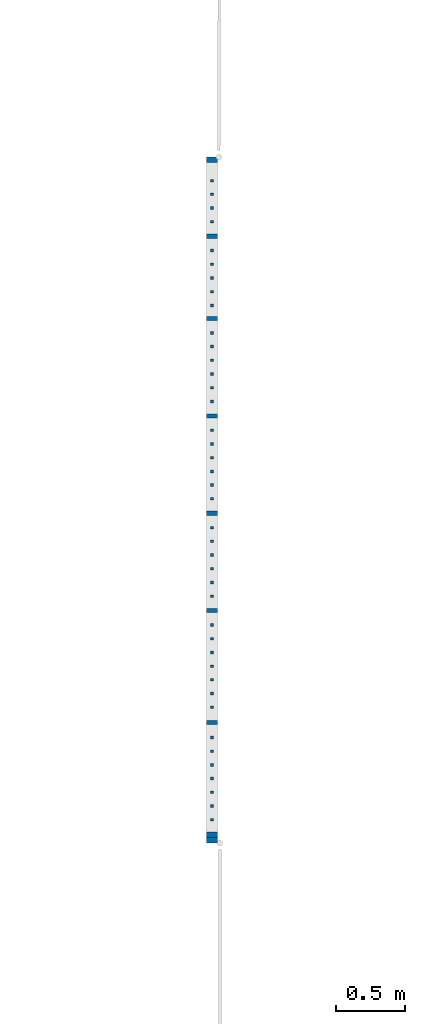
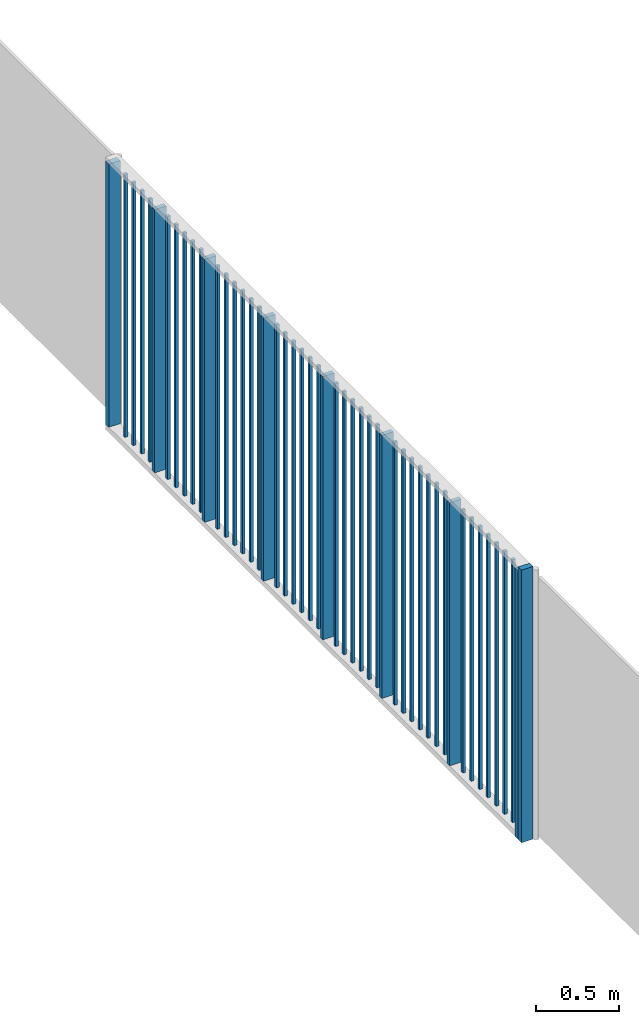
# One storey, part 6 of 91: 50 columns.
"""IFC2X3 building model written with IfcOpenShell, lengths in metres."""

from ifc_helpers import new_model, entity, si_unit, converted_unit, derived_unit, money_unit, direction, frame, origin_with_axes, origin_2d_with_axis, place, context, subcontext, project, spatial, rectangle, extrude, material, type_object, element, save


model = new_model("IFC2X3")

# Units and contexts
model_context = context("Model", 3, precision=1e-05, world=origin_with_axes(), true_north=direction((0.0, 1.0)))
body_context = subcontext(model_context, "Body", "Model", "MODEL_VIEW")
ifc_project = project(units=[si_unit("LENGTHUNIT", "METRE"), si_unit("AREAUNIT", "SQUARE_METRE"), si_unit("VOLUMEUNIT", "CUBIC_METRE"), converted_unit("PLANEANGLEUNIT", "DEGREE", entity("IfcPlaneAngleMeasure", 0.0174532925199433), si_unit("PLANEANGLEUNIT", "RADIAN"), dimensions=[0, 0, 0, 0, 0, 0, 0]), money_unit("EUR"), converted_unit("TIMEUNIT", "Year", entity("IfcTimeMeasure", 31557600.0), si_unit("TIMEUNIT", "SECOND"), dimensions=[0, 0, 1, 0, 0, 0, 0]), si_unit("MASSUNIT", "GRAM", prefix="KILO"), si_unit("THERMODYNAMICTEMPERATUREUNIT", "DEGREE_CELSIUS"), si_unit("LUMINOUSINTENSITYUNIT", "LUMEN"), si_unit("ENERGYUNIT", "JOULE", prefix="MEGA"), derived_unit("THERMALCONDUCTANCEUNIT", [(si_unit("POWERUNIT", "WATT"), 1), (si_unit("LENGTHUNIT", "METRE"), -1), (si_unit("THERMODYNAMICTEMPERATUREUNIT", "KELVIN"), -1)]), derived_unit("SPECIFICHEATCAPACITYUNIT", [(si_unit("ENERGYUNIT", "JOULE"), 1), (si_unit("MASSUNIT", "GRAM", prefix="KILO"), -1), (si_unit("THERMODYNAMICTEMPERATUREUNIT", "KELVIN"), -1)]), derived_unit("MASSDENSITYUNIT", [(si_unit("MASSUNIT", "GRAM", prefix="KILO"), 1), (si_unit("VOLUMEUNIT", "CUBIC_METRE"), -1)])], contexts=[model_context])

# Site, building, storey
site_placement = place(None, origin_with_axes())
site = spatial("IfcSite", under=ifc_project, at=site_placement, Name="Site", CompositionType="ELEMENT")
building_placement = place(site_placement, origin_with_axes())
building = spatial("IfcBuilding", under=site, at=building_placement, Name="Bâtiment", CompositionType="ELEMENT")
storey_placement = place(building_placement, origin_with_axes())
storey = spatial("IfcBuildingStorey", under=building, at=storey_placement, Name="RDC", CompositionType="ELEMENT", Elevation=0.0)

# Columns
ifc_material = material(Name="Métal - Acier")
column_type_1 = type_object("IfcColumnType", Name="Métal - Acier 20 x 20", PredefinedType="NOTDEFINED")
for number, where, z_axis, x_axis in (
    (1, (48.97569491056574, -2.697461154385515, 0.04000000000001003), (0.0, 0.0, 1.0), (0.0, 1.0, 0.0)),
    (2, (48.97569491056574, -2.897461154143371, 0.04000000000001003), (0.0, 0.0, 1.0), (0.0, 1.0, 0.0)),
    (3, (48.97569491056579, -2.087461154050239, 0.04000000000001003), (0.0, 0.0, 1.0), (0.0, 1.0, 0.0)),
    (4, (48.97569491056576, -1.887461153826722, 0.04000000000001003), (0.0, 0.0, 1.0), (0.0, 1.0, 0.0)),
    (5, (48.97569491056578, -1.98746115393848, 0.04000000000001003), (0.0, 0.0, 1.0), (0.0, 1.0, 0.0)),
    (6, (48.97569491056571, -2.597461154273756, 0.04000000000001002), (0.0, 0.0, 1.0), (0.0, 1.0, 0.0)),
    (7, (48.97569491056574, -2.797461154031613, 0.04000000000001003), (0.0, 0.0, 1.0), (0.0, 1.0, 0.0)),
    (8, (48.9756949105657, -2.497461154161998, 0.04000000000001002), (0.0, 0.0, 1.0), (0.0, 1.0, 0.0)),
    (9, (48.97569491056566, -3.317461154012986, 0.04000000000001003), (0.0, 0.0, 1.0), (0.0, 1.0, 0.0)),
    (10, (48.97569491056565, -3.217461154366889, 0.04000000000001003), (0.0, 0.0, 1.0), (0.0, 1.0, 0.0)),
    (11, (48.97569491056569, -2.397461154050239, 0.04000000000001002), (0.0, 0.0, 1.0), (0.0, 1.0, 0.0)),
    (12, (48.97569491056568, -3.517461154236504, 0.04000000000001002), (0.0, 0.0, 1.0), (0.0, 1.0, 0.0)),
    (13, (48.97569491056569, -3.617461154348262, 0.04000000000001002), (0.0, 0.0, 1.0), (0.0, 1.0, 0.0)),
    (14, (48.97569491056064, 0.4325388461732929, 0.04000000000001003), (0.0, 0.0, 1.0), (0.0, 1.0, 0.0)),
    (15, (48.97569491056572, -3.717461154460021, 0.04000000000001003), (0.0, 0.0, 1.0), (0.0, 1.0, 0.0)),
    (16, (48.97569491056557, -1.787461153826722, 0.04000000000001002), (0.0, 0.0, 1.0), (0.0, 1.0, 0.0)),
    (17, (48.97569491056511, -1.687461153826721, 0.04000000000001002), (0.0, 0.0, 1.0), (0.0, 1.0, 0.0)),
    (18, (48.97569491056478, -1.587461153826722, 0.04000000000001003), (0.0, 0.0, 1.0), (0.0, 1.0, 0.0)),
    (19, (48.97569491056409, -1.177461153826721, 0.04000000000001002), (0.0, 0.0, 1.0), (0.0, 1.0, 0.0)),
    (20, (48.97569491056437, -1.277461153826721, 0.04000000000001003), (0.0, 0.0, 1.0), (0.0, 1.0, 0.0)),
    (21, (48.97569491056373, -0.9774611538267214, 0.04000000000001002), (0.0, 0.0, 1.0), (0.0, 1.0, 0.0)),
    (22, (48.97569491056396, -1.077461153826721, 0.04000000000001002), (0.0, 0.0, 1.0), (0.0, 1.0, 0.0)),
    (23, (48.97569491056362, -0.8774611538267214, 0.04000000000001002), (0.0, 0.0, 1.0), (0.0, 1.0, 0.0)),
    (24, (48.97569491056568, -3.417461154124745, 0.04000000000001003), (0.0, 0.0, 1.0), (0.0, 1.0, 0.0)),
    (25, (48.97569491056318, -0.6674611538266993, 0.04000000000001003), (0.0, 0.0, 1.0), (0.0, 1.0, 0.0)),
    (26, (48.97569491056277, -0.5674611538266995, 0.04000000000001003), (0.0, 0.0, 1.0), (0.0, 1.0, 0.0)),
    (27, (48.97569491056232, -0.3674611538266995, 0.04000000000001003), (0.0, 0.0, 1.0), (0.0, 1.0, 0.0)),
    (28, (48.97569491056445, -1.377461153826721, 0.04000000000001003), (0.0, 0.0, 1.0), (0.0, 1.0, 0.0)),
    (29, (48.9756949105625, -0.4674611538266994, 0.04000000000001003), (0.0, 0.0, 1.0), (0.0, 1.0, 0.0)),
    (30, (48.97569491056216, -0.2674611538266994, 0.04000000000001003), (0.0, 0.0, 1.0), (0.0, 1.0, 0.0)),
    (31, (48.97569491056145, 0.0325388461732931, 0.04000000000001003), (0.0, 0.0, 1.0), (0.0, 1.0, 0.0)),
    (32, (48.97569491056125, 0.132538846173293, 0.04000000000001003), (0.0, 0.0, 1.0), (0.0, 1.0, 0.0)),
    (33, (48.97569491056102, 0.232538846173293, 0.04000000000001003), (0.0, 0.0, 1.0), (0.0, 1.0, 0.0)),
    (34, (48.97569491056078, 0.332538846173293, 0.04000000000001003), (0.0, 0.0, 1.0), (0.0, 1.0, 0.0)),
    (35, (48.97569491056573, -3.117461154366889, 0.04000000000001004), (0.0, 0.0, 1.0), (0.0, 1.0, 0.0)),
    (36, (48.97569491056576, -2.297461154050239, 0.04000000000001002), (0.0, 0.0, 1.0), (0.0, 1.0, 0.0)),
    (37, (48.97569491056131, 0.7425388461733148, 0.04000000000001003), (0.0, 0.0, 1.0), (0.0, 1.0, 0.0)),
    (38, (48.97569491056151, 0.6425388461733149, 0.04000000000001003), (0.0, 0.0, 1.0), (0.0, 1.0, 0.0)),
    (39, (48.97569491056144, 0.9425388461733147, 0.04000000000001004), (0.0, 0.0, 1.0), (0.0, 1.0, 0.0)),
    (40, (48.97569491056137, 0.8425388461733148, 0.04000000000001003), (0.0, 0.0, 1.0), (0.0, 1.0, 0.0)),
    (41, (48.97569491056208, -0.1674611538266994, 0.04000000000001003), (0.0, 0.0, 1.0), (0.0, 1.0, 0.0)),
):
    element("IfcColumn", number, at=place(storey_placement, frame(where, z_axis=z_axis, x_axis=x_axis)), inside=storey, type_object=column_type_1, material=ifc_material, Name="PotB-002", context=body_context, shape_type="SweptSolid", body=[
        extrude(rectangle(XDim=0.02, YDim=0.02, at=origin_2d_with_axis()), origin_with_axes(), (0.0, 0.0, 1.0), 1.92999999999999),
    ])
column_type_2 = type_object("IfcColumnType", Name="Métal - Acier 40 x 80", PredefinedType="NOTDEFINED")
column_1_placement = place(storey_placement, frame((48.97569491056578, -3.825963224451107, 0.0), z_axis=(0.0, 0.0, 1.0), x_axis=(0.0, 1.0, 0.0)))
element("IfcColumn", 42, at=column_1_placement, inside=storey, type_object=column_type_2, material=ifc_material, Name="PotB-002", context=body_context, shape_type="SweptSolid", body=[
    extrude(rectangle(XDim=0.04, YDim=0.08, at=origin_2d_with_axis()), origin_with_axes(), (0.0, 0.0, 1.0), 1.97),
])
column_2_placement = place(storey_placement, frame((48.97569491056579, 1.094036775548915, 0.04000000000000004), z_axis=(0.0, 0.0, 1.0), x_axis=(0.0, 1.0, 0.0)))
element("IfcColumn", 43, at=column_2_placement, inside=storey, type_object=column_type_2, material=ifc_material, Name="PotB-002", context=body_context, shape_type="SweptSolid", body=[
    extrude(rectangle(XDim=0.04, YDim=0.08, at=origin_2d_with_axis()), origin_with_axes(), (0.0, 0.0, 1.0), 1.93),
])
column_3_placement = place(storey_placement, frame((48.97569491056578, -3.865963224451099, 0.0), z_axis=(0.0, 0.0, 1.0), x_axis=(0.0, 1.0, 0.0)))
element("IfcColumn", 44, at=column_3_placement, inside=storey, type_object=column_type_2, material=ifc_material, Name="PotB-002", context=body_context, shape_type="SweptSolid", body=[
    extrude(rectangle(XDim=0.04, YDim=0.08, at=origin_2d_with_axis()), origin_with_axes(), (0.0, 0.0, 1.0), 2.0),
])
column_type_3 = type_object("IfcColumnType", Name="Métal - Acier 30 x 80", PredefinedType="NOTDEFINED")
column_4_placement = place(storey_placement, frame((48.97569491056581, -2.192461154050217, 0.04000000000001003), z_axis=(0.0, 0.0, 1.0), x_axis=(0.0, 1.0, 0.0)))
element("IfcColumn", 45, at=column_4_placement, inside=storey, type_object=column_type_3, material=ifc_material, Name="PotB-002", context=body_context, shape_type="SweptSolid", body=[
    extrude(rectangle(XDim=0.03, YDim=0.08, at=origin_2d_with_axis()), origin_with_axes(), (0.0, 0.0, 1.0), 1.92999999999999),
])
column_5_placement = place(storey_placement, frame((48.97569491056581, -3.00746115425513, 0.03999999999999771), z_axis=(0.0, 0.0, 1.0), x_axis=(0.0, 1.0, 0.0)))
element("IfcColumn", 46, at=column_5_placement, inside=storey, type_object=column_type_3, material=ifc_material, Name="PotB-002", context=body_context, shape_type="SweptSolid", body=[
    extrude(rectangle(XDim=0.03, YDim=0.08, at=origin_2d_with_axis()), origin_with_axes(), (0.0, 0.0, 1.0), 1.930000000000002),
])
column_6_placement = place(storey_placement, frame((48.97569491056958, -1.482461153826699, 0.0399999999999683), z_axis=(0.0, 0.0, 1.0), x_axis=(0.0, 1.0, 0.0)))
element("IfcColumn", 47, at=column_6_placement, inside=storey, type_object=column_type_3, material=ifc_material, Name="PotB-002", context=body_context, shape_type="SweptSolid", body=[
    extrude(rectangle(XDim=0.03, YDim=0.08, at=origin_2d_with_axis()), origin_with_axes(), (0.0, 0.0, 1.0), 1.930000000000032),
])
column_7_placement = place(storey_placement, frame((48.97569491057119, -0.7724611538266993, 0.03999999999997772), z_axis=(0.0, 0.0, 1.0), x_axis=(0.0, 1.0, 0.0)))
element("IfcColumn", 48, at=column_7_placement, inside=storey, type_object=column_type_3, material=ifc_material, Name="PotB-002", context=body_context, shape_type="SweptSolid", body=[
    extrude(rectangle(XDim=0.03, YDim=0.08, at=origin_2d_with_axis()), origin_with_axes(), (0.0, 0.0, 1.0), 1.930000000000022),
])
column_8_placement = place(storey_placement, frame((48.97569491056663, -0.06246115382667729, 0.03999999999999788), z_axis=(0.0, 0.0, 1.0), x_axis=(0.0, 1.0, 0.0)))
element("IfcColumn", 49, at=column_8_placement, inside=storey, type_object=column_type_3, material=ifc_material, Name="PotB-002", context=body_context, shape_type="SweptSolid", body=[
    extrude(rectangle(XDim=0.03, YDim=0.08, at=origin_2d_with_axis()), origin_with_axes(), (0.0, 0.0, 1.0), 1.930000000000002),
])
column_9_placement = place(storey_placement, frame((48.97569491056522, 0.537538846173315, 0.04000000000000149), z_axis=(0.0, 0.0, 1.0), x_axis=(0.0, 1.0, 0.0)))
element("IfcColumn", 50, at=column_9_placement, inside=storey, type_object=column_type_3, material=ifc_material, Name="PotB-002", context=body_context, shape_type="SweptSolid", body=[
    extrude(rectangle(XDim=0.03, YDim=0.08, at=origin_2d_with_axis()), origin_with_axes(), (0.0, 0.0, 1.0), 1.929999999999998),
])

save(model, "model.ifc")
